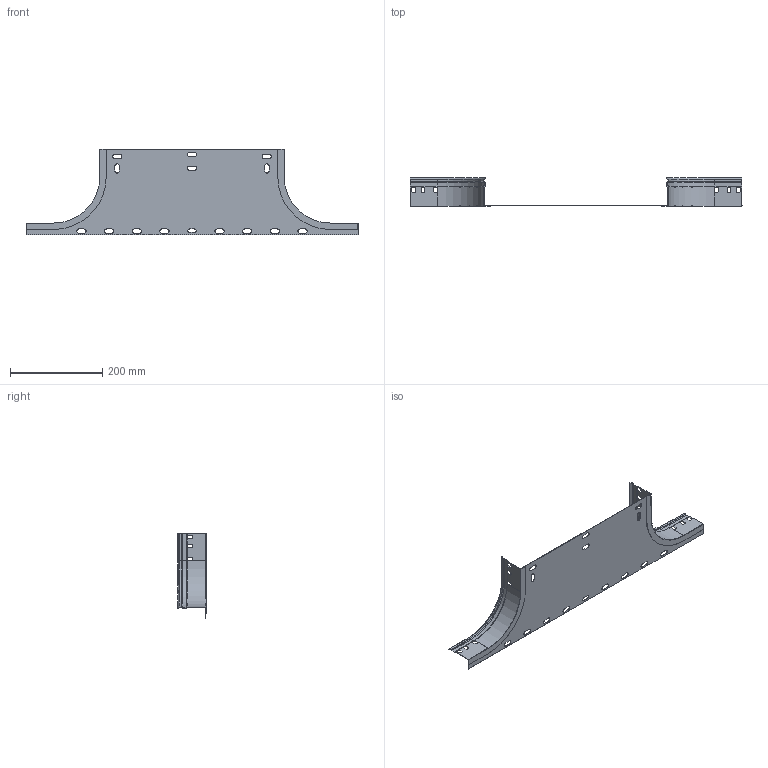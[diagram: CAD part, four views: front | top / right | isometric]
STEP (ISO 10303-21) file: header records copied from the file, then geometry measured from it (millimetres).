
FILE_DESCRIPTION (( 'STEP AP203' ), '1' );
FILE_NAME ('ERE_AS 400x60.step', '2023-07-27T18:50:10', ( '' ), ( '' ), 'SwSTEP 2.0', 'SolidWorks 2022', '' );
FILE_SCHEMA (( 'CONFIG_CONTROL_DESIGN' ));
Length unit declared in the file: millimetre
Products named in the file (3): ERE_BASE AS_400; ERE_AS 400x60; ERE_LATERAL AS_60
Assembly tree (3 placements, depth 2):
  ERE_AS 400x60
    ERE_BASE AS_400
    ERE_LATERAL AS_60  x2
Bounding box: 720 x 62 x 185.5 mm (x, y, z)
Volume: 109385.8 mm3; surface area: 256109.2 mm2
Topology: 3 solids, 3 shells, 226 faces, 648 edges, 404 vertices
Faces by surface type: plane 140, cylinder 72, cone 14
Entity records: 5303 total; most frequent: CARTESIAN_POINT 874, ORIENTED_EDGE 864, DIRECTION 862, EDGE_CURVE 432, VECTOR 306, LINE 306, AXIS2_PLACEMENT_3D 278, VERTEX_POINT 274
